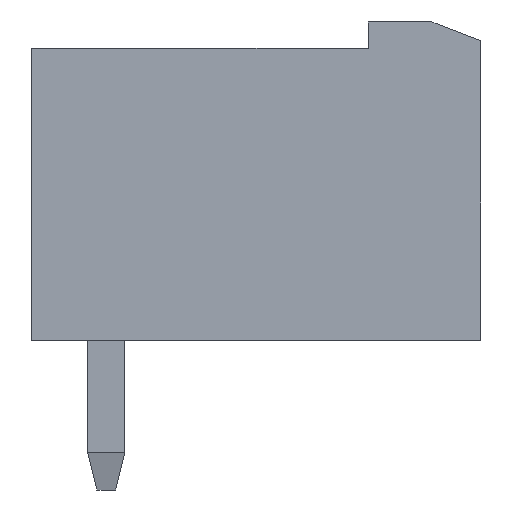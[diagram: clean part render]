
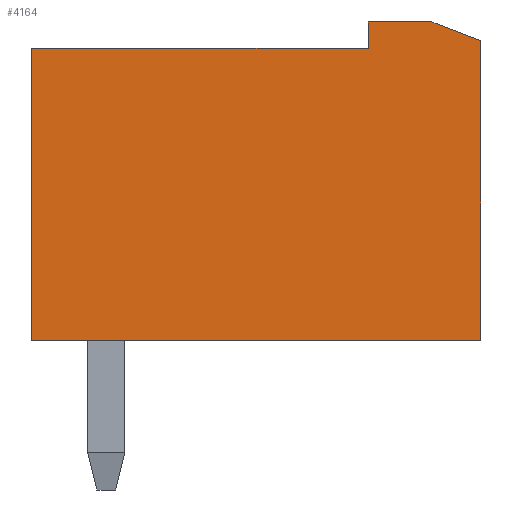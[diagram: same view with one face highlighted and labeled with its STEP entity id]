
A CAD part, left-side view. The second image highlights one B-rep face of the part: STEP entity #4164.
In plain terms, the highlighted free-form (B-spline) face has degree [1, 1] with [2, 2] control points.
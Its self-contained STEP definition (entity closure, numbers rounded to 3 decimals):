
#4164 = ADVANCED_FACE('',(#4165),#4178,.T.);
#4165 = FACE_BOUND('',#4166,.T.);
#4166 = EDGE_LOOP('',(#4167,#4188,#4225,#4239,#4253,#4267,#4281));
#4167 = ORIENTED_EDGE('',*,*,#4168,.T.);
#4168 = EDGE_CURVE('',#4169,#4171,#4173,.T.);
#4169 = VERTEX_POINT('',#4170);
#4170 = CARTESIAN_POINT('',(-5.,0.,-3.9));
#4171 = VERTEX_POINT('',#4172);
#4172 = CARTESIAN_POINT('',(-5.,0.,4.1));
#4173 = SURFACE_CURVE('',#4174,(#4177),.PCURVE_S1.);
#4174 = B_SPLINE_CURVE_WITH_KNOTS('',1,(#4175,#4176),.UNSPECIFIED.,.F.,
  .F.,(2,2),(0.,1.),.PIECEWISE_BEZIER_KNOTS.);
#4175 = CARTESIAN_POINT('',(-5.,0.,-3.9));
#4176 = CARTESIAN_POINT('',(-5.,0.,4.1));
#4177 = PCURVE('',#4178,#4183);
#4178 = B_SPLINE_SURFACE_WITH_KNOTS('',1,1,(
    (#4179,#4180)
    ,(#4181,#4182
    )),.UNSPECIFIED.,.F.,.F.,.F.,(2,2),(2,2),(0.,1.),(0.,1.),
  .PIECEWISE_BEZIER_KNOTS.);
#4179 = CARTESIAN_POINT('',(-5.,44.765,-40.93));
#4180 = CARTESIAN_POINT('',(-5.,44.765,18.23));
#4181 = CARTESIAN_POINT('',(-5.,-14.395,-40.93));
#4182 = CARTESIAN_POINT('',(-5.,-14.395,18.23));
#4183 = DEFINITIONAL_REPRESENTATION('',(#4184),#4187);
#4184 = B_SPLINE_CURVE_WITH_KNOTS('',1,(#4185,#4186),.UNSPECIFIED.,.F.,
  .F.,(2,2),(0.,1.),.PIECEWISE_BEZIER_KNOTS.);
#4185 = CARTESIAN_POINT('',(0.757,0.626));
#4186 = CARTESIAN_POINT('',(0.757,0.761));
#4187 = ( GEOMETRIC_REPRESENTATION_CONTEXT(2) 
PARAMETRIC_REPRESENTATION_CONTEXT() REPRESENTATION_CONTEXT('2D SPACE',''
  ) );
#4188 = ORIENTED_EDGE('',*,*,#4189,.T.);
#4189 = EDGE_CURVE('',#4171,#4190,#4192,.T.);
#4190 = VERTEX_POINT('',#4191);
#4191 = CARTESIAN_POINT('',(-5.,1.3,4.6));
#4192 = SURFACE_CURVE('',#4193,(#4196),.PCURVE_S1.);
#4193 = B_SPLINE_CURVE_WITH_KNOTS('',1,(#4194,#4195),.UNSPECIFIED.,.F.,
  .F.,(2,2),(0.,1.),.PIECEWISE_BEZIER_KNOTS.);
#4194 = CARTESIAN_POINT('',(-5.,0.,4.1));
#4195 = CARTESIAN_POINT('',(-5.,1.3,4.6));
#4196 = PCURVE('',#4178,#4197);
#4197 = DEFINITIONAL_REPRESENTATION('',(#4198),#4224);
#4198 = B_SPLINE_CURVE_WITH_KNOTS('',3,(#4199,#4200,#4201,#4202,#4203,
    #4204,#4205,#4206,#4207,#4208,#4209,#4210,#4211,#4212,#4213,#4214,
    #4215,#4216,#4217,#4218,#4219,#4220,#4221,#4222,#4223),
  .UNSPECIFIED.,.F.,.F.,(4,1,1,1,1,1,1,1,1,1,1,1,1,1,1,1,1,1,1,1,1,1,4),
  (0.,0.045,0.091,0.136,
    0.182,0.227,0.273,0.318,
    0.364,0.409,0.455,0.5,0.545,
    0.591,0.636,0.682,0.727,
    0.773,0.818,0.864,0.909,
    0.955,1.),.QUASI_UNIFORM_KNOTS.);
#4199 = CARTESIAN_POINT('',(0.757,0.761));
#4200 = CARTESIAN_POINT('',(0.756,0.761));
#4201 = CARTESIAN_POINT('',(0.756,0.762));
#4202 = CARTESIAN_POINT('',(0.755,0.762));
#4203 = CARTESIAN_POINT('',(0.754,0.762));
#4204 = CARTESIAN_POINT('',(0.753,0.763));
#4205 = CARTESIAN_POINT('',(0.752,0.763));
#4206 = CARTESIAN_POINT('',(0.751,0.763));
#4207 = CARTESIAN_POINT('',(0.75,0.764));
#4208 = CARTESIAN_POINT('',(0.749,0.764));
#4209 = CARTESIAN_POINT('',(0.748,0.765));
#4210 = CARTESIAN_POINT('',(0.747,0.765));
#4211 = CARTESIAN_POINT('',(0.746,0.765));
#4212 = CARTESIAN_POINT('',(0.745,0.766));
#4213 = CARTESIAN_POINT('',(0.744,0.766));
#4214 = CARTESIAN_POINT('',(0.743,0.767));
#4215 = CARTESIAN_POINT('',(0.742,0.767));
#4216 = CARTESIAN_POINT('',(0.741,0.767));
#4217 = CARTESIAN_POINT('',(0.74,0.768));
#4218 = CARTESIAN_POINT('',(0.739,0.768));
#4219 = CARTESIAN_POINT('',(0.738,0.768));
#4220 = CARTESIAN_POINT('',(0.737,0.769));
#4221 = CARTESIAN_POINT('',(0.736,0.769));
#4222 = CARTESIAN_POINT('',(0.735,0.769));
#4223 = CARTESIAN_POINT('',(0.735,0.77));
#4224 = ( GEOMETRIC_REPRESENTATION_CONTEXT(2) 
PARAMETRIC_REPRESENTATION_CONTEXT() REPRESENTATION_CONTEXT('2D SPACE',''
  ) );
#4225 = ORIENTED_EDGE('',*,*,#4226,.T.);
#4226 = EDGE_CURVE('',#4190,#4227,#4229,.T.);
#4227 = VERTEX_POINT('',#4228);
#4228 = CARTESIAN_POINT('',(-5.,3.,4.6));
#4229 = SURFACE_CURVE('',#4230,(#4233),.PCURVE_S1.);
#4230 = B_SPLINE_CURVE_WITH_KNOTS('',1,(#4231,#4232),.UNSPECIFIED.,.F.,
  .F.,(2,2),(0.,1.),.PIECEWISE_BEZIER_KNOTS.);
#4231 = CARTESIAN_POINT('',(-5.,1.3,4.6));
#4232 = CARTESIAN_POINT('',(-5.,3.,4.6));
#4233 = PCURVE('',#4178,#4234);
#4234 = DEFINITIONAL_REPRESENTATION('',(#4235),#4238);
#4235 = B_SPLINE_CURVE_WITH_KNOTS('',1,(#4236,#4237),.UNSPECIFIED.,.F.,
  .F.,(2,2),(0.,1.),.PIECEWISE_BEZIER_KNOTS.);
#4236 = CARTESIAN_POINT('',(0.735,0.77));
#4237 = CARTESIAN_POINT('',(0.706,0.77));
#4238 = ( GEOMETRIC_REPRESENTATION_CONTEXT(2) 
PARAMETRIC_REPRESENTATION_CONTEXT() REPRESENTATION_CONTEXT('2D SPACE',''
  ) );
#4239 = ORIENTED_EDGE('',*,*,#4240,.T.);
#4240 = EDGE_CURVE('',#4227,#4241,#4243,.T.);
#4241 = VERTEX_POINT('',#4242);
#4242 = CARTESIAN_POINT('',(-5.,3.,3.9));
#4243 = SURFACE_CURVE('',#4244,(#4247),.PCURVE_S1.);
#4244 = B_SPLINE_CURVE_WITH_KNOTS('',1,(#4245,#4246),.UNSPECIFIED.,.F.,
  .F.,(2,2),(0.,1.),.PIECEWISE_BEZIER_KNOTS.);
#4245 = CARTESIAN_POINT('',(-5.,3.,4.6));
#4246 = CARTESIAN_POINT('',(-5.,3.,3.9));
#4247 = PCURVE('',#4178,#4248);
#4248 = DEFINITIONAL_REPRESENTATION('',(#4249),#4252);
#4249 = B_SPLINE_CURVE_WITH_KNOTS('',1,(#4250,#4251),.UNSPECIFIED.,.F.,
  .F.,(2,2),(0.,1.),.PIECEWISE_BEZIER_KNOTS.);
#4250 = CARTESIAN_POINT('',(0.706,0.77));
#4251 = CARTESIAN_POINT('',(0.706,0.758));
#4252 = ( GEOMETRIC_REPRESENTATION_CONTEXT(2) 
PARAMETRIC_REPRESENTATION_CONTEXT() REPRESENTATION_CONTEXT('2D SPACE',''
  ) );
#4253 = ORIENTED_EDGE('',*,*,#4254,.T.);
#4254 = EDGE_CURVE('',#4241,#4255,#4257,.T.);
#4255 = VERTEX_POINT('',#4256);
#4256 = CARTESIAN_POINT('',(-5.,12.,3.9));
#4257 = SURFACE_CURVE('',#4258,(#4261),.PCURVE_S1.);
#4258 = B_SPLINE_CURVE_WITH_KNOTS('',1,(#4259,#4260),.UNSPECIFIED.,.F.,
  .F.,(2,2),(0.,1.),.PIECEWISE_BEZIER_KNOTS.);
#4259 = CARTESIAN_POINT('',(-5.,3.,3.9));
#4260 = CARTESIAN_POINT('',(-5.,12.,3.9));
#4261 = PCURVE('',#4178,#4262);
#4262 = DEFINITIONAL_REPRESENTATION('',(#4263),#4266);
#4263 = B_SPLINE_CURVE_WITH_KNOTS('',1,(#4264,#4265),.UNSPECIFIED.,.F.,
  .F.,(2,2),(0.,1.),.PIECEWISE_BEZIER_KNOTS.);
#4264 = CARTESIAN_POINT('',(0.706,0.758));
#4265 = CARTESIAN_POINT('',(0.554,0.758));
#4266 = ( GEOMETRIC_REPRESENTATION_CONTEXT(2) 
PARAMETRIC_REPRESENTATION_CONTEXT() REPRESENTATION_CONTEXT('2D SPACE',''
  ) );
#4267 = ORIENTED_EDGE('',*,*,#4268,.T.);
#4268 = EDGE_CURVE('',#4255,#4269,#4271,.T.);
#4269 = VERTEX_POINT('',#4270);
#4270 = CARTESIAN_POINT('',(-5.,12.,-3.9));
#4271 = SURFACE_CURVE('',#4272,(#4275),.PCURVE_S1.);
#4272 = B_SPLINE_CURVE_WITH_KNOTS('',1,(#4273,#4274),.UNSPECIFIED.,.F.,
  .F.,(2,2),(0.,1.),.PIECEWISE_BEZIER_KNOTS.);
#4273 = CARTESIAN_POINT('',(-5.,12.,3.9));
#4274 = CARTESIAN_POINT('',(-5.,12.,-3.9));
#4275 = PCURVE('',#4178,#4276);
#4276 = DEFINITIONAL_REPRESENTATION('',(#4277),#4280);
#4277 = B_SPLINE_CURVE_WITH_KNOTS('',1,(#4278,#4279),.UNSPECIFIED.,.F.,
  .F.,(2,2),(0.,1.),.PIECEWISE_BEZIER_KNOTS.);
#4278 = CARTESIAN_POINT('',(0.554,0.758));
#4279 = CARTESIAN_POINT('',(0.554,0.626));
#4280 = ( GEOMETRIC_REPRESENTATION_CONTEXT(2) 
PARAMETRIC_REPRESENTATION_CONTEXT() REPRESENTATION_CONTEXT('2D SPACE',''
  ) );
#4281 = ORIENTED_EDGE('',*,*,#4282,.T.);
#4282 = EDGE_CURVE('',#4269,#4169,#4283,.T.);
#4283 = SURFACE_CURVE('',#4284,(#4287),.PCURVE_S1.);
#4284 = B_SPLINE_CURVE_WITH_KNOTS('',1,(#4285,#4286),.UNSPECIFIED.,.F.,
  .F.,(2,2),(0.,1.),.PIECEWISE_BEZIER_KNOTS.);
#4285 = CARTESIAN_POINT('',(-5.,12.,-3.9));
#4286 = CARTESIAN_POINT('',(-5.,0.,-3.9));
#4287 = PCURVE('',#4178,#4288);
#4288 = DEFINITIONAL_REPRESENTATION('',(#4289),#4292);
#4289 = B_SPLINE_CURVE_WITH_KNOTS('',1,(#4290,#4291),.UNSPECIFIED.,.F.,
  .F.,(2,2),(0.,1.),.PIECEWISE_BEZIER_KNOTS.);
#4290 = CARTESIAN_POINT('',(0.554,0.626));
#4291 = CARTESIAN_POINT('',(0.757,0.626));
#4292 = ( GEOMETRIC_REPRESENTATION_CONTEXT(2) 
PARAMETRIC_REPRESENTATION_CONTEXT() REPRESENTATION_CONTEXT('2D SPACE',''
  ) );
